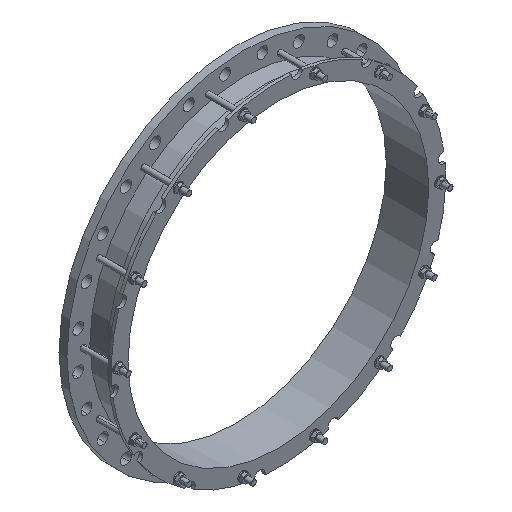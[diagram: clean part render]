
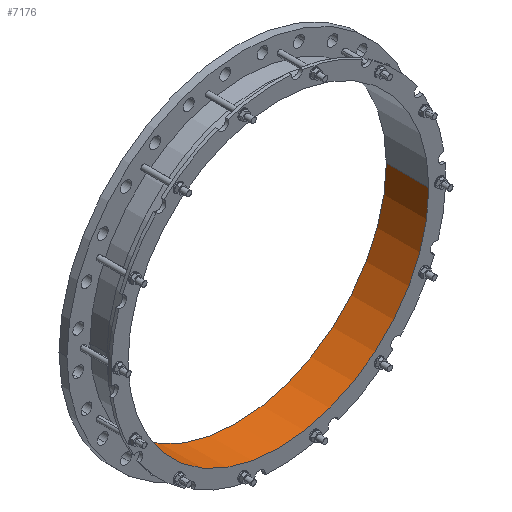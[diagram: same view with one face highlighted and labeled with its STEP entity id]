
A CAD part, isometric view. The second image highlights one B-rep face of the part: STEP entity #7176.
In plain terms, the highlighted cylindrical face has radius 474 mm (diameter 948 mm), a partial arc.
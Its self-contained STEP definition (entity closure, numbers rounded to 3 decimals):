
#7=CARTESIAN_POINT('',(0.,25.,0.));
#8=DIRECTION('',(0.,1.,0.));
#9=DIRECTION('',(1.,0.,0.));
#10=AXIS2_PLACEMENT_3D('',#7,#8,#9);
#1630=CARTESIAN_POINT('',(0.,-109.,0.));
#1631=DIRECTION('',(0.,1.,0.));
#1632=DIRECTION('',(1.,0.,0.));
#1633=AXIS2_PLACEMENT_3D('',#1630,#1631,#1632);
#1635=DIRECTION('',(0.,1.,0.));
#1636=VECTOR('',#1635,134.);
#1637=CARTESIAN_POINT('',(474.,-109.,0.));
#1638=LINE('',#1637,#1636);
#1639=DIRECTION('',(0.,1.,0.));
#1640=VECTOR('',#1639,134.);
#1641=CARTESIAN_POINT('',(-474.,-109.,0.));
#1642=LINE('',#1641,#1640);
#5188=CARTESIAN_POINT('',(474.,-109.,0.));
#5189=CARTESIAN_POINT('',(474.,25.,0.));
#5190=VERTEX_POINT('',#5188);
#5191=VERTEX_POINT('',#5189);
#5196=CARTESIAN_POINT('',(-474.,-109.,0.));
#5197=CARTESIAN_POINT('',(-474.,25.,0.));
#5198=VERTEX_POINT('',#5196);
#5199=VERTEX_POINT('',#5197);
#7163=CARTESIAN_POINT('',(0.,-115.7,0.));
#7164=DIRECTION('',(0.,1.,0.));
#7165=DIRECTION('',(-1.,0.,0.));
#7166=AXIS2_PLACEMENT_3D('',#7163,#7164,#7165);
#7167=CYLINDRICAL_SURFACE('',#7166,474.);
#7169=ORIENTED_EDGE('',*,*,#7168,.F.);
#7170=ORIENTED_EDGE('',*,*,#7156,.T.);
#7172=ORIENTED_EDGE('',*,*,#7171,.T.);
#7173=ORIENTED_EDGE('',*,*,#6273,.F.);
#7174=EDGE_LOOP('',(#7169,#7170,#7172,#7173));
#7175=FACE_OUTER_BOUND('',#7174,.F.);
#7176=ADVANCED_FACE('',(#7175),#7167,.F.);
#11=CIRCLE('',#10,474.);
#1634=CIRCLE('',#1633,474.);
#6273=EDGE_CURVE('',#5191,#5199,#11,.T.);
#7156=EDGE_CURVE('',#5190,#5198,#1634,.T.);
#7168=EDGE_CURVE('',#5190,#5191,#1638,.T.);
#7171=EDGE_CURVE('',#5198,#5199,#1642,.T.);
